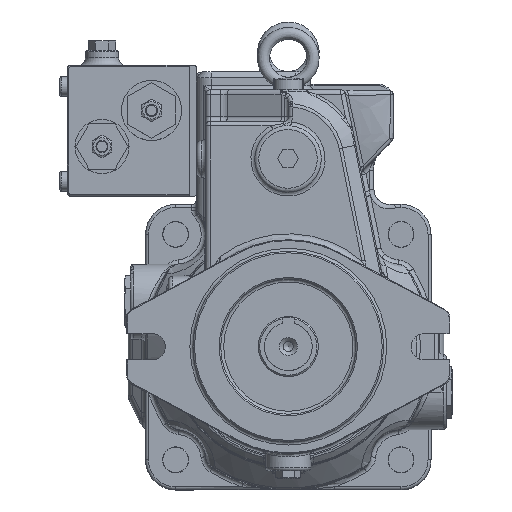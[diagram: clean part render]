
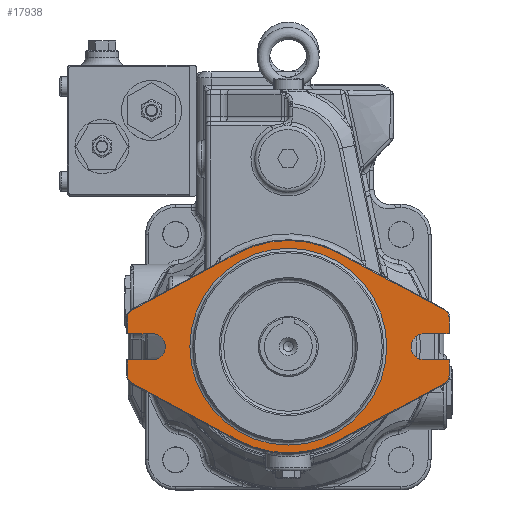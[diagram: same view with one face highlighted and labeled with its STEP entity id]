
A CAD part, top view. The second image highlights one B-rep face of the part: STEP entity #17938.
In plain terms, the highlighted planar face has unit normal (0, 0, 1).
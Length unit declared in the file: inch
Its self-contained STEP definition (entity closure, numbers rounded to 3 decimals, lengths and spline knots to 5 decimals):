
#1389=LINE('',#27615,#2340);
#1416=LINE('',#27681,#2367);
#1428=LINE('',#27711,#2379);
#1437=LINE('',#27732,#2388);
#1440=LINE('',#27740,#2391);
#1443=LINE('',#27748,#2394);
#1446=LINE('',#27755,#2397);
#1447=LINE('',#27759,#2398);
#1452=LINE('',#27770,#2403);
#1454=LINE('',#27774,#2405);
#1457=LINE('',#27784,#2408);
#1458=LINE('',#27786,#2409);
#2340=VECTOR('',#21628,0.3937);
#2367=VECTOR('',#21691,0.3937);
#2379=VECTOR('',#21719,0.3937);
#2388=VECTOR('',#21742,0.3937);
#2391=VECTOR('',#21751,0.3937);
#2394=VECTOR('',#21760,0.3937);
#2397=VECTOR('',#21769,0.3937);
#2398=VECTOR('',#21774,0.3937);
#2403=VECTOR('',#21785,0.3937);
#2405=VECTOR('',#21789,0.3937);
#2408=VECTOR('',#21802,0.3937);
#2409=VECTOR('',#21805,0.3937);
#3260=PLANE('',#19320);
#3655=FACE_BOUND('',#5233,.T.);
#4011=FACE_OUTER_BOUND('',#5232,.T.);
#5232=EDGE_LOOP('',(#12232,#12233,#12234,#12235,#12236,#12237,#12238,#12239,
#12240,#12241,#12242,#12243,#12244,#12245,#12246,#12247,#12248,#12249,#12250,
#12251));
#5233=EDGE_LOOP('',(#12252));
#6598=CIRCLE('',#19284,0.23365);
#6599=CIRCLE('',#19287,2.78278);
#6600=CIRCLE('',#19290,0.23365);
#6601=CIRCLE('',#19295,2.78278);
#6602=CIRCLE('',#19299,0.23365);
#6603=CIRCLE('',#19301,0.23365);
#6611=CIRCLE('',#19319,2.57825);
#6612=CIRCLE('',#19321,0.34449);
#6613=CIRCLE('',#19322,0.34449);
#7656=VERTEX_POINT('',#27612);
#7657=VERTEX_POINT('',#27614);
#7677=VERTEX_POINT('',#27678);
#7678=VERTEX_POINT('',#27680);
#7687=VERTEX_POINT('',#27708);
#7688=VERTEX_POINT('',#27710);
#7692=VERTEX_POINT('',#27728);
#7693=VERTEX_POINT('',#27730);
#7694=VERTEX_POINT('',#27734);
#7695=VERTEX_POINT('',#27738);
#7696=VERTEX_POINT('',#27742);
#7697=VERTEX_POINT('',#27746);
#7698=VERTEX_POINT('',#27751);
#7699=VERTEX_POINT('',#27758);
#7700=VERTEX_POINT('',#27762);
#7701=VERTEX_POINT('',#27764);
#7702=VERTEX_POINT('',#27768);
#7703=VERTEX_POINT('',#27772);
#7704=VERTEX_POINT('',#27776);
#7705=VERTEX_POINT('',#27780);
#7713=VERTEX_POINT('',#27809);
#9324=EDGE_CURVE('',#7656,#7657,#1389,.T.);
#9357=EDGE_CURVE('',#7677,#7678,#1416,.T.);
#9372=EDGE_CURVE('',#7687,#7688,#1428,.T.);
#9383=EDGE_CURVE('',#7693,#7692,#1437,.T.);
#9385=EDGE_CURVE('',#7694,#7693,#6598,.T.);
#9387=EDGE_CURVE('',#7695,#7694,#1440,.T.);
#9389=EDGE_CURVE('',#7696,#7695,#6599,.T.);
#9391=EDGE_CURVE('',#7697,#7696,#1443,.T.);
#9394=EDGE_CURVE('',#7698,#7697,#6600,.T.);
#9395=EDGE_CURVE('',#7678,#7698,#1446,.T.);
#9396=EDGE_CURVE('',#7692,#7699,#1447,.T.);
#9399=EDGE_CURVE('',#7700,#7701,#6601,.T.);
#9402=EDGE_CURVE('',#7702,#7700,#1452,.T.);
#9404=EDGE_CURVE('',#7701,#7703,#1454,.T.);
#9406=EDGE_CURVE('',#7704,#7702,#6602,.T.);
#9408=EDGE_CURVE('',#7703,#7705,#6603,.T.);
#9409=EDGE_CURVE('',#7657,#7704,#1457,.T.);
#9410=EDGE_CURVE('',#7705,#7687,#1458,.T.);
#9418=EDGE_CURVE('',#7713,#7713,#6611,.T.);
#9419=EDGE_CURVE('',#7688,#7677,#6612,.T.);
#9420=EDGE_CURVE('',#7699,#7656,#6613,.T.);
#12232=ORIENTED_EDGE('',*,*,#9395,.F.);
#12233=ORIENTED_EDGE('',*,*,#9357,.F.);
#12234=ORIENTED_EDGE('',*,*,#9419,.F.);
#12235=ORIENTED_EDGE('',*,*,#9372,.F.);
#12236=ORIENTED_EDGE('',*,*,#9410,.F.);
#12237=ORIENTED_EDGE('',*,*,#9408,.F.);
#12238=ORIENTED_EDGE('',*,*,#9404,.F.);
#12239=ORIENTED_EDGE('',*,*,#9399,.F.);
#12240=ORIENTED_EDGE('',*,*,#9402,.F.);
#12241=ORIENTED_EDGE('',*,*,#9406,.F.);
#12242=ORIENTED_EDGE('',*,*,#9409,.F.);
#12243=ORIENTED_EDGE('',*,*,#9324,.F.);
#12244=ORIENTED_EDGE('',*,*,#9420,.F.);
#12245=ORIENTED_EDGE('',*,*,#9396,.F.);
#12246=ORIENTED_EDGE('',*,*,#9383,.F.);
#12247=ORIENTED_EDGE('',*,*,#9385,.F.);
#12248=ORIENTED_EDGE('',*,*,#9387,.F.);
#12249=ORIENTED_EDGE('',*,*,#9389,.F.);
#12250=ORIENTED_EDGE('',*,*,#9391,.F.);
#12251=ORIENTED_EDGE('',*,*,#9394,.F.);
#12252=ORIENTED_EDGE('',*,*,#9418,.F.);
#17938=ADVANCED_FACE('',(#4011,#3655),#3260,.T.);
#19284=AXIS2_PLACEMENT_3D('',#27736,#21746,#21747);
#19287=AXIS2_PLACEMENT_3D('',#27744,#21755,#21756);
#19290=AXIS2_PLACEMENT_3D('',#27753,#21765,#21766);
#19295=AXIS2_PLACEMENT_3D('',#27765,#21779,#21780);
#19299=AXIS2_PLACEMENT_3D('',#27778,#21793,#21794);
#19301=AXIS2_PLACEMENT_3D('',#27782,#21798,#21799);
#19319=AXIS2_PLACEMENT_3D('',#27810,#21836,#21837);
#19320=AXIS2_PLACEMENT_3D('',#27811,#21838,#21839);
#19321=AXIS2_PLACEMENT_3D('',#27812,#21840,#21841);
#19322=AXIS2_PLACEMENT_3D('',#27813,#21842,#21843);
#21628=DIRECTION('',(-1.,0.,0.));
#21691=DIRECTION('',(1.,0.,0.));
#21719=DIRECTION('',(-1.,0.,0.));
#21742=DIRECTION('',(0.,1.,0.));
#21746=DIRECTION('center_axis',(0.,0.,
-1.));
#21747=DIRECTION('ref_axis',(-0.473,-0.881,0.));
#21751=DIRECTION('',(-0.881,0.473,0.));
#21755=DIRECTION('center_axis',(0.,0.,
-1.));
#21756=DIRECTION('ref_axis',(0.473,-0.881,0.));
#21760=DIRECTION('',(-0.881,-0.473,0.));
#21765=DIRECTION('center_axis',(0.,0.,
-1.));
#21766=DIRECTION('ref_axis',(1.,0.,0.));
#21769=DIRECTION('',(0.,-1.,0.));
#21774=DIRECTION('',(1.,0.,0.));
#21779=DIRECTION('center_axis',(0.,0.,
-1.));
#21780=DIRECTION('ref_axis',(-0.473,0.881,0.));
#21785=DIRECTION('',(0.881,0.473,0.));
#21789=DIRECTION('',(0.881,-0.473,0.));
#21793=DIRECTION('center_axis',(0.,0.,
-1.));
#21794=DIRECTION('ref_axis',(-1.,0.,0.));
#21798=DIRECTION('center_axis',(0.,0.,
-1.));
#21799=DIRECTION('ref_axis',(0.473,0.881,0.));
#21802=DIRECTION('',(0.,1.,0.));
#21805=DIRECTION('',(0.,-1.,0.));
#21836=DIRECTION('center_axis',(0.,0.,
1.));
#21837=DIRECTION('ref_axis',(-1.,0.,0.));
#21838=DIRECTION('center_axis',(0.,0.,
1.));
#21839=DIRECTION('ref_axis',(1.,0.,0.));
#21840=DIRECTION('center_axis',(0.,0.,
1.));
#21841=DIRECTION('ref_axis',(0.,1.,0.));
#21842=DIRECTION('center_axis',(0.,0.,
1.));
#21843=DIRECTION('ref_axis',(0.,-1.,0.));
#27612=CARTESIAN_POINT('',(-3.56299,0.34449,2.08346));
#27614=CARTESIAN_POINT('',(-4.2126,0.34449,2.08346));
#27615=CARTESIAN_POINT('',(-3.56299,0.34449,2.08346));
#27678=CARTESIAN_POINT('',(3.56299,-0.34449,2.08346));
#27680=CARTESIAN_POINT('',(4.2126,-0.34449,2.08346));
#27681=CARTESIAN_POINT('',(3.56299,-0.34449,2.08346));
#27708=CARTESIAN_POINT('',(4.2126,0.34449,2.08346));
#27710=CARTESIAN_POINT('',(3.56299,0.34449,2.08346));
#27711=CARTESIAN_POINT('',(4.23228,0.34449,2.08346));
#27728=CARTESIAN_POINT('',(-4.2126,-0.34449,2.08346));
#27730=CARTESIAN_POINT('',(-4.2126,-0.7571,2.08346));
#27732=CARTESIAN_POINT('',(-4.2126,-0.17224,2.08346));
#27734=CARTESIAN_POINT('',(-4.08947,-0.96296,2.08346));
#27736=CARTESIAN_POINT('Origin',(-3.97895,-0.7571,2.08346));
#27738=CARTESIAN_POINT('',(-1.31628,-2.45179,2.08346));
#27740=CARTESIAN_POINT('',(-2.70287,-1.70737,2.08346));
#27742=CARTESIAN_POINT('',(1.31628,-2.45179,2.08346));
#27744=CARTESIAN_POINT('Origin',(0.,0.,
2.08346));
#27746=CARTESIAN_POINT('',(4.08947,-0.96296,2.08346));
#27748=CARTESIAN_POINT('',(1.31628,-2.45179,2.08346));
#27751=CARTESIAN_POINT('',(4.2126,-0.7571,2.08346));
#27753=CARTESIAN_POINT('Origin',(3.97895,-0.7571,2.08346));
#27755=CARTESIAN_POINT('',(4.2126,-0.37855,2.08346));
#27758=CARTESIAN_POINT('',(-3.56299,-0.34449,2.08346));
#27759=CARTESIAN_POINT('',(-4.23228,-0.34449,2.08346));
#27762=CARTESIAN_POINT('',(-1.31628,2.45179,2.08346));
#27764=CARTESIAN_POINT('',(1.31628,2.45179,2.08346));
#27765=CARTESIAN_POINT('Origin',(0.,0.,
2.08346));
#27768=CARTESIAN_POINT('',(-4.08947,0.96296,2.08346));
#27770=CARTESIAN_POINT('',(-1.31628,2.45179,2.08346));
#27772=CARTESIAN_POINT('',(4.08947,0.96296,2.08346));
#27774=CARTESIAN_POINT('',(2.70287,1.70737,2.08346));
#27776=CARTESIAN_POINT('',(-4.2126,0.7571,2.08346));
#27778=CARTESIAN_POINT('Origin',(-3.97895,0.7571,2.08346));
#27780=CARTESIAN_POINT('',(4.2126,0.7571,2.08346));
#27782=CARTESIAN_POINT('Origin',(3.97895,0.7571,2.08346));
#27784=CARTESIAN_POINT('',(-4.2126,0.37855,2.08346));
#27786=CARTESIAN_POINT('',(4.2126,0.17224,2.08346));
#27809=CARTESIAN_POINT('',(2.57825,0.,2.08346));
#27810=CARTESIAN_POINT('Origin',(0.,0.,
2.08346));
#27811=CARTESIAN_POINT('Origin',(0.,0.,
2.08346));
#27812=CARTESIAN_POINT('Origin',(3.56299,0.,2.08346));
#27813=CARTESIAN_POINT('Origin',(-3.56299,0.,
2.08346));
